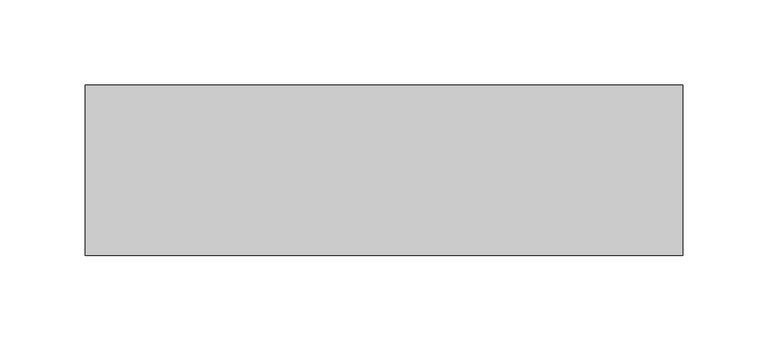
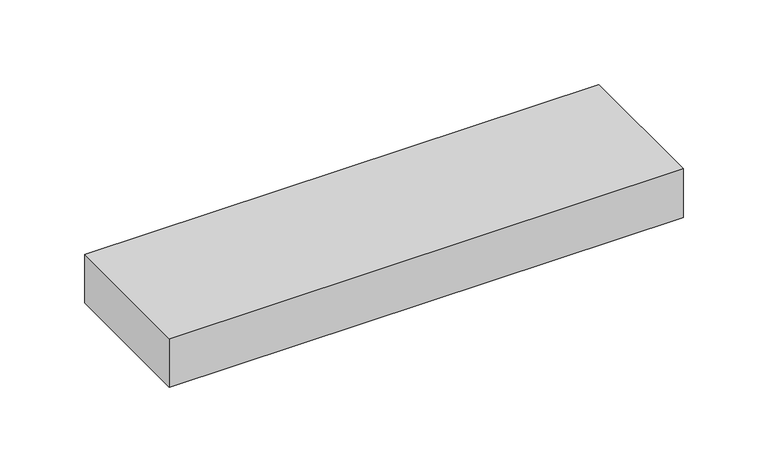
"""IFC4 building model written with IfcOpenShell, lengths in millimetres: furniture geometry, Pixel_Multiple : Pixel_Multiple."""

from ifc_helpers import new_model, si_unit, origin, origin_with_axes, place, context, project, spatial, polyline, outline, extrude, source, transform, mapped, element, save


def furniture_eb65c164(model_context):
    return source(origin(), model_context, "Body", "SweptSolid", [
        extrude(outline(polyline([(350.0, 0.0), (0.0, 0.0), (0.0, 100.0), (350.0, 100.0), (350.0, 0.0)])), origin_with_axes(), (0.0, 0.0, 1.0), 35.0),
    ])


if __name__ == "__main__":
    model = new_model("IFC4")
    model_context = context("Model", 3, world=origin())
    ifc_project = project(units=[si_unit("LENGTHUNIT", "METRE", prefix="MILLI")], contexts=[model_context])
    site = spatial("IfcSite", under=ifc_project)
    building = spatial("IfcBuilding", under=site)
    placement = place(None, origin())
    furniture_shape = furniture_eb65c164(model_context)
    element("IfcFurniture", 1, ObjectType="Pixel_Multiple : Pixel_Multiple", at=placement, inside=building, context=model_context, shape_type="MappedRepresentation", body=[
        mapped(furniture_shape, transform((0.0, 0.0, 0.0), x_axis=(1.0, 0.0, 0.0), y_axis=(0.0, 1.0, 0.0), z_axis=(0.0, 0.0, 1.0))),
    ])
    save(model, "model.ifc")
